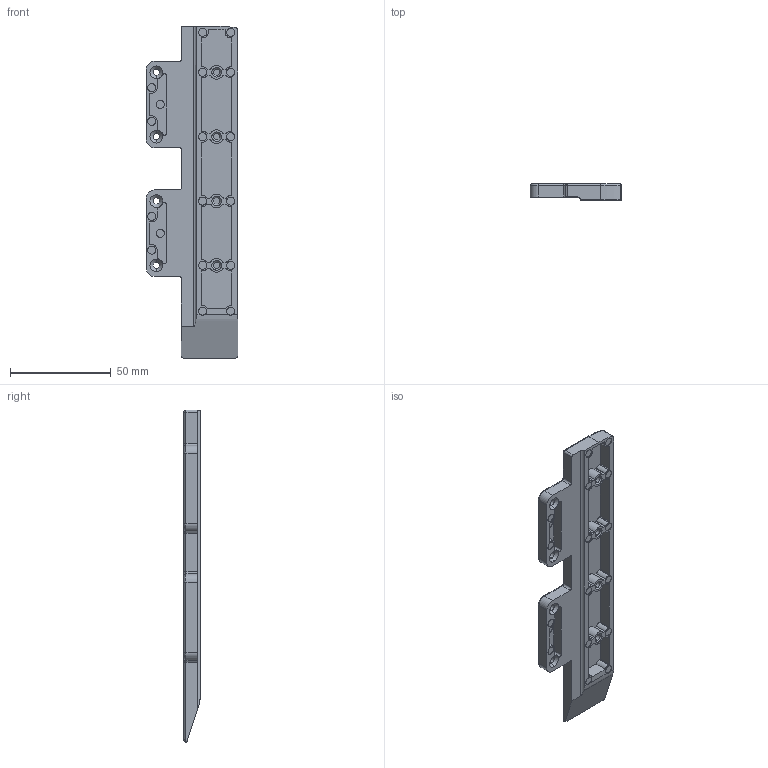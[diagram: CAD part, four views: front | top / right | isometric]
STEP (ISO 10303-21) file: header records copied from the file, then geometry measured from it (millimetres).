
FILE_DESCRIPTION (( 'STEP AP203' ), '1' );
FILE_NAME ('Aluminiumrahmenadapter_T-71_T-76_links_D2720005~0.step', '2012-05-04T06:17:33', ( 'admin' ), ( 'Hewlett-Packard Company' ), 'SwSTEP 2.0', 'SolidWorks 2011', '' );
FILE_SCHEMA (( 'CONFIG_CONTROL_DESIGN' ));
Length unit declared in the file: millimetre
Products named in the file (1): Aluminiumrahmenadapter_T-71_T-76_links_D2720005~0
Bounding box: 45.5 x 8 x 165 mm (x, y, z)
Volume: 29580.4 mm3; surface area: 18899.1 mm2
Topology: 1 solids, 1 shells, 300 faces, 772 edges, 497 vertices
Faces by surface type: cylinder 160, plane 111, cone 16, torus 9, sphere 4
Entity records: 9318 total; most frequent: DIRECTION 1704, CARTESIAN_POINT 1636, ORIENTED_EDGE 1536, EDGE_CURVE 768, AXIS2_PLACEMENT_3D 643, VERTEX_POINT 497, LINE 418, VECTOR 418
